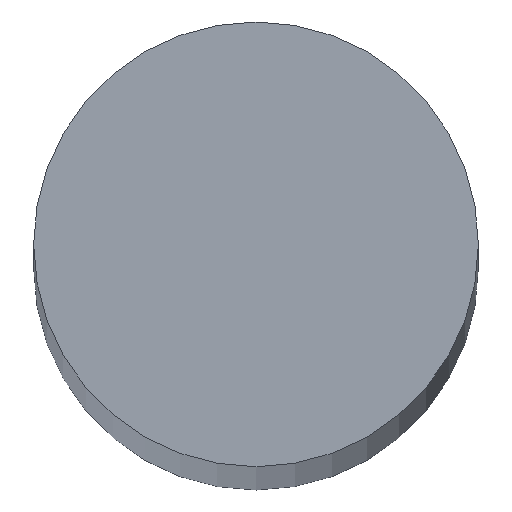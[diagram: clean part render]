
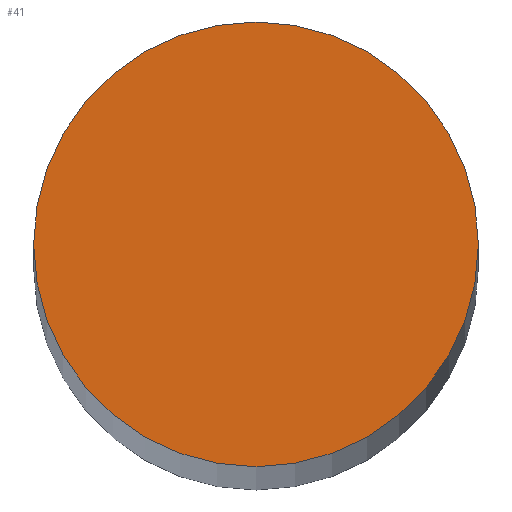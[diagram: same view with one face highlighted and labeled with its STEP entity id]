
A CAD part, top view. The second image highlights one B-rep face of the part: STEP entity #41.
In plain terms, the highlighted planar face has unit normal (0, 0, 1).
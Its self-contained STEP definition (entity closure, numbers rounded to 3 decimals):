
#16=PLANE('',#66);
#19=FACE_OUTER_BOUND('',#22,.T.);
#22=EDGE_LOOP('',(#37));
#25=CIRCLE('',#63,10.);
#27=VERTEX_POINT('',#82);
#29=EDGE_CURVE('',#27,#27,#25,.T.);
#37=ORIENTED_EDGE('',*,*,#29,.T.);
#41=ADVANCED_FACE('',(#19),#16,.T.);
#63=AXIS2_PLACEMENT_3D('',#83,#71,#72);
#66=AXIS2_PLACEMENT_3D('',#88,#78,#79);
#71=DIRECTION('center_axis',(0.,0.,1.));
#72=DIRECTION('ref_axis',(-1.,0.,0.));
#78=DIRECTION('center_axis',(0.,0.,1.));
#79=DIRECTION('ref_axis',(1.,0.,0.));
#82=CARTESIAN_POINT('',(10.,0.,600.));
#83=CARTESIAN_POINT('Origin',(0.,0.,600.));
#88=CARTESIAN_POINT('Origin',(0.,0.,600.));
